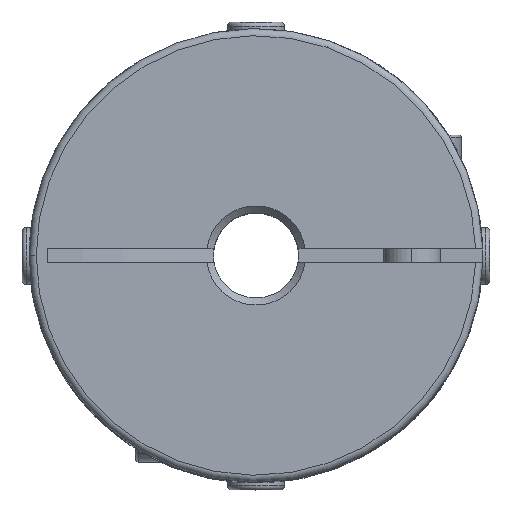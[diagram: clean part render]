
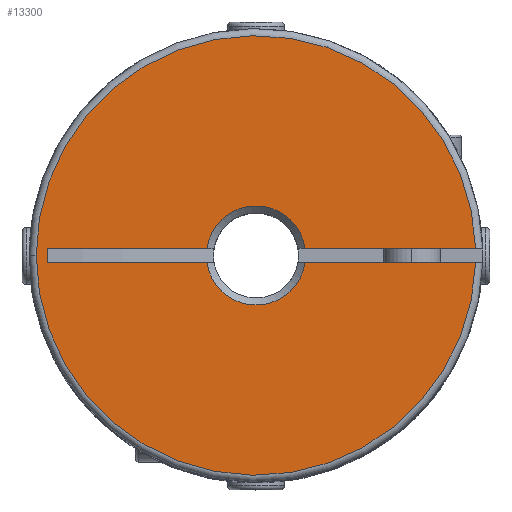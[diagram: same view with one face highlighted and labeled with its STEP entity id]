
A CAD part, top view. The second image highlights one B-rep face of the part: STEP entity #13300.
In plain terms, the highlighted planar face has unit normal (0, 0, 1).
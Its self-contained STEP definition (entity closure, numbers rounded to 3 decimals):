
#480 = EDGE_CURVE ( 'NONE', #5850, #5900, #6226, .T. ) ;
#950 = AXIS2_PLACEMENT_3D ( 'NONE', #15690, #15687, #15686 ) ;
#1199 = AXIS2_PLACEMENT_3D ( 'NONE', #7900, #7901, #7902 ) ;
#1200 = AXIS2_PLACEMENT_3D ( 'NONE', #7909, #7910, #7911 ) ;
#1201 = AXIS2_PLACEMENT_3D ( 'NONE', #7914, #7915, #7916 ) ;
#1967 = CARTESIAN_POINT ( 'NONE',  ( -3.464, 0.5, 21.5 ) ) ;
#1977 = CARTESIAN_POINT ( 'NONE',  ( -14.7, -0.5, 21.5 ) ) ;
#1979 = CARTESIAN_POINT ( 'NONE',  ( 3.464, -0.5, 21.5 ) ) ;
#2089 = CARTESIAN_POINT ( 'NONE',  ( 3.464, 0.5, 21.5 ) ) ;
#2100 = CARTESIAN_POINT ( 'NONE',  ( 15.492, -0.5, 21.5 ) ) ;
#2102 = CARTESIAN_POINT ( 'NONE',  ( -3.464, -0.5, 21.5 ) ) ;
#3420 = FACE_OUTER_BOUND ( 'NONE', #14783, .T. ) ;
#3876 = AXIS2_PLACEMENT_3D ( 'NONE', #10872, #10880, #10881 ) ;
#4428 = EDGE_CURVE ( 'NONE', #15887, #15766, #14313, .T. ) ;
#4429 = EDGE_CURVE ( 'NONE', #15766, #15889, #14312, .T. ) ;
#4430 = EDGE_CURVE ( 'NONE', #15889, #15764, #14315, .T. ) ;
#4431 = EDGE_CURVE ( 'NONE', #5929, #15764, #14316, .T. ) ;
#4432 = EDGE_CURVE ( 'NONE', #15754, #5929, #14318, .T. ) ;
#4433 = EDGE_CURVE ( 'NONE', #15754, #15876, #14320, .T. ) ;
#4434 = EDGE_CURVE ( 'NONE', #5850, #15876, #14322, .T. ) ;
#4435 = EDGE_CURVE ( 'NONE', #5900, #15887, #14323, .T. ) ;
#5850 = VERTEX_POINT ( 'NONE', #8505 ) ;
#5900 = VERTEX_POINT ( 'NONE', #8555 ) ;
#5929 = VERTEX_POINT ( 'NONE', #8584 ) ;
#6226 = CIRCLE ( 'NONE', #950, 15.5 ) ;
#7854 = CARTESIAN_POINT ( 'NONE',  ( 15.5, -0.5, 21.5 ) ) ;
#7863 = DIRECTION ( 'NONE',  ( -1., 0., 0. ) ) ;
#7896 = CARTESIAN_POINT ( 'NONE',  ( 15.5, -0.5, 21.5 ) ) ;
#7897 = DIRECTION ( 'NONE',  ( -1., 0., 0. ) ) ;
#7898 = CARTESIAN_POINT ( 'NONE',  ( 15.5, 0.5, 21.5 ) ) ;
#7899 = DIRECTION ( 'NONE',  ( -1., 0., 0. ) ) ;
#7900 = CARTESIAN_POINT ( 'NONE',  ( 0., 0., 21.5 ) ) ;
#7901 = DIRECTION ( 'NONE',  ( 0., 0., -1. ) ) ;
#7902 = DIRECTION ( 'NONE',  ( 0., -1., 0. ) ) ;
#7903 = CARTESIAN_POINT ( 'NONE',  ( -14.7, 0.5, 21.5 ) ) ;
#7904 = DIRECTION ( 'NONE',  ( 0., -1., 0. ) ) ;
#7905 = CARTESIAN_POINT ( 'NONE',  ( 15.5, 0.5, 21.5 ) ) ;
#7906 = DIRECTION ( 'NONE',  ( -1., 0., 0. ) ) ;
#7909 = CARTESIAN_POINT ( 'NONE',  ( 0., 0., 21.5 ) ) ;
#7910 = DIRECTION ( 'NONE',  ( 0., 0., -1. ) ) ;
#7911 = DIRECTION ( 'NONE',  ( 0., -1., 0. ) ) ;
#7914 = CARTESIAN_POINT ( 'NONE',  ( 0., 0., 21.5 ) ) ;
#7915 = DIRECTION ( 'NONE',  ( 0., 0., 1. ) ) ;
#7916 = DIRECTION ( 'NONE',  ( -1., 0., 0. ) ) ;
#8505 = CARTESIAN_POINT ( 'NONE',  ( 15.492, 0.5, 21.5 ) ) ;
#8555 = CARTESIAN_POINT ( 'NONE',  ( -15.5, 0., 21.5 ) ) ;
#8584 = CARTESIAN_POINT ( 'NONE',  ( -14.7, 0.5, 21.5 ) ) ;
#10336 = ORIENTED_EDGE ( 'NONE', *, *, #4428, .T. ) ;
#10337 = ORIENTED_EDGE ( 'NONE', *, *, #4429, .T. ) ;
#10338 = ORIENTED_EDGE ( 'NONE', *, *, #4430, .T. ) ;
#10339 = ORIENTED_EDGE ( 'NONE', *, *, #4431, .F. ) ;
#10340 = ORIENTED_EDGE ( 'NONE', *, *, #4432, .F. ) ;
#10341 = ORIENTED_EDGE ( 'NONE', *, *, #4433, .T. ) ;
#10342 = ORIENTED_EDGE ( 'NONE', *, *, #4434, .F. ) ;
#10343 = ORIENTED_EDGE ( 'NONE', *, *, #480, .T. ) ;
#10344 = ORIENTED_EDGE ( 'NONE', *, *, #4435, .T. ) ;
#10872 = CARTESIAN_POINT ( 'NONE',  ( 0., 0., 21.5 ) ) ;
#10876 = PLANE ( 'NONE',  #3876 ) ;
#10880 = DIRECTION ( 'NONE',  ( 0., 0., 1. ) ) ;
#10881 = DIRECTION ( 'NONE',  ( -1., 0., 0. ) ) ;
#13300 = ADVANCED_FACE ( 'NONE', ( #3420 ), #10876, .T. ) ;
#14312 = CIRCLE ( 'NONE', #1199, 3.5 ) ;
#14313 = LINE ( 'NONE', #7896, #14314 ) ;
#14314 = VECTOR ( 'NONE', #7897, 1000. ) ;
#14315 = LINE ( 'NONE', #7854, #14317 ) ;
#14316 = LINE ( 'NONE', #7903, #14319 ) ;
#14317 = VECTOR ( 'NONE', #7863, 1000. ) ;
#14318 = LINE ( 'NONE', #7905, #14321 ) ;
#14319 = VECTOR ( 'NONE', #7904, 1000. ) ;
#14320 = CIRCLE ( 'NONE', #1200, 3.5 ) ;
#14321 = VECTOR ( 'NONE', #7906, 1000. ) ;
#14322 = LINE ( 'NONE', #7898, #14324 ) ;
#14323 = CIRCLE ( 'NONE', #1201, 15.5 ) ;
#14324 = VECTOR ( 'NONE', #7899, 1000. ) ;
#14783 = EDGE_LOOP ( 'NONE', ( #10336, #10337, #10338, #10339, #10340, #10341, #10342, #10343, #10344 ) ) ;
#15686 = DIRECTION ( 'NONE',  ( -1., 0., 0. ) ) ;
#15687 = DIRECTION ( 'NONE',  ( 0., 0., 1. ) ) ;
#15690 = CARTESIAN_POINT ( 'NONE',  ( 0., 0., 21.5 ) ) ;
#15754 = VERTEX_POINT ( 'NONE', #1967 ) ;
#15764 = VERTEX_POINT ( 'NONE', #1977 ) ;
#15766 = VERTEX_POINT ( 'NONE', #1979 ) ;
#15876 = VERTEX_POINT ( 'NONE', #2089 ) ;
#15887 = VERTEX_POINT ( 'NONE', #2100 ) ;
#15889 = VERTEX_POINT ( 'NONE', #2102 ) ;
